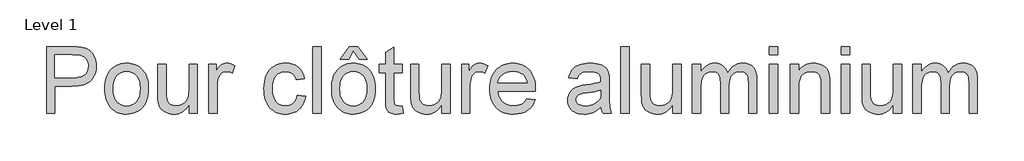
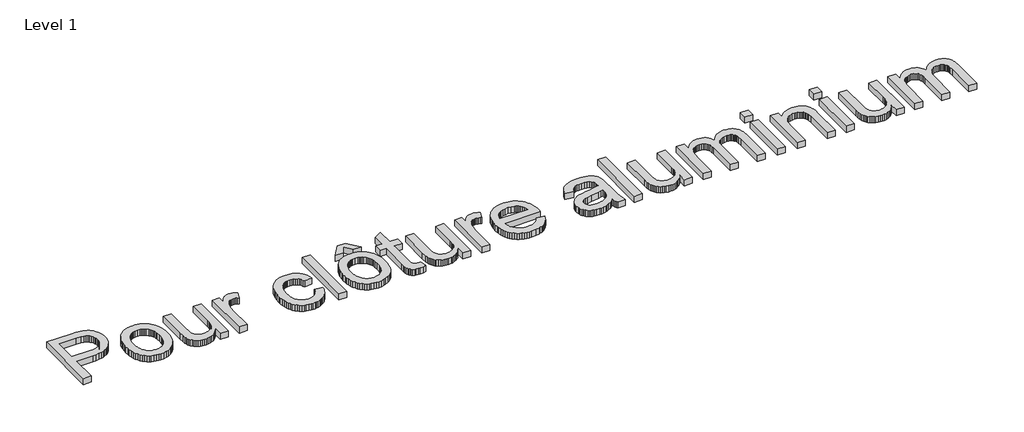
# One storey, part 4 of 4: 1 proxy.
"""IFC4 building model written with IfcOpenShell, lengths in millimetres."""

from ifc_helpers import new_model, si_unit, origin, origin_with_axes, place, context, project, spatial, polyline, outline, extrude, element, save

model = new_model("IFC4")

# Units and contexts
model_context = context("Model", 3, world=origin())
ifc_project = project(units=[si_unit("LENGTHUNIT", "METRE", prefix="MILLI")], contexts=[model_context])

# Site, building, storey
site = spatial("IfcSite", under=ifc_project)
building = spatial("IfcBuilding", under=site)
storey = spatial("IfcBuildingStorey", under=building, Name="Level 1", Elevation=0.0)

# Proxy
placement = place(None, origin())
element("IfcBuildingElementProxy", 1, Name="24\" Arial", ObjectType="24\" Arial", at=placement, inside=storey, context=model_context, shape_type="SweptSolid", body=[
    extrude(outline(polyline([(-79427.594753, 18375.4761138), (-79427.594753, 19882.320766), (-78869.1498843, 19882.320766), (-78739.103599, 19878.7339166), (-78644.0061033, 19867.9733682), (-78591.5944153, 19856.6724932), (-78543.6203038, 19841.1639678), (-78500.083769, 19821.4477922), (-78460.9848107, 19797.5239662), (-78425.9095617, 19768.8981484), (-78394.4441548, 19735.0759975), (-78366.58859, 19696.0575134), (-78342.3428672, 19651.8426961), (-78322.7071657, 19603.8915773), (-78308.6816647, 19553.6641886), (-78300.266364, 19501.1605301), (-78297.4612638, 19446.3806018), (-78299.3552813, 19399.205484), (-78305.0373336, 19353.8812726), (-78314.5074209, 19310.4079674), (-78327.7655432, 19268.7855686), (-78344.8117003, 19229.014076), (-78365.6458924, 19191.0934897), (-78390.2681193, 19155.0238097), (-78418.6783812, 19120.805036), (-78452.0320574, 19089.592548), (-78491.4845273, 19062.541725), (-78537.0357909, 19039.6525672), (-78588.6858482, 19020.9250743), (-78646.4346993, 19006.3592466), (-78710.282344, 18995.9550839), (-78780.2287824, 18989.7125863), (-78856.2740145, 18987.6317538), (-79239.2391715, 18987.6317538), (-79239.2391715, 18375.4761138), (-79427.594753, 18375.4761138)]), holes=[polyline([(-79239.2391715, 19175.9873353), (-78845.2375546, 19175.9873353), (-78754.6466133, 19180.3099487), (-78678.2191288, 19193.2777891), (-78645.3166829, 19203.0036693), (-78615.9551011, 19214.8908563), (-78590.1343836, 19228.93935), (-78567.8545303, 19245.1491504), (-78531.9630431, 19283.2479295), (-78506.3262666, 19328.3824518), (-78490.9442006, 19380.5527172), (-78485.8168453, 19439.7587258), (-78488.8403755, 19483.7206243), (-78497.9109659, 19524.3715847), (-78513.0286167, 19561.7116072), (-78534.1933277, 19595.7406918), (-78560.2784604, 19625.3551924), (-78590.1573762, 19649.4514631), (-78623.8300751, 19668.0295039), (-78661.296557, 19681.0893147), (-78733.9532511, 19690.7462171), (-78849.6521386, 19693.9651845), (-79239.2391715, 19693.9651845), (-79239.2391715, 19175.9873353)])]), origin_with_axes(), (0.0, 0.0, 1.0), 150.0),
    extrude(outline(polyline([(-78109.1056823, 18928.7706345), (-78106.5592491, 19002.9046047), (-78098.9199495, 19072.0836643), (-78086.1877836, 19136.3078132), (-78068.3627513, 19195.5770515), (-78045.4448526, 19249.8913792), (-78017.4340876, 19299.2507963), (-77984.3304562, 19343.6553028), (-77946.1339584, 19383.1048986), (-77911.1736726, 19411.8169387), (-77874.3509841, 19436.7007068), (-77835.6658931, 19457.7562028), (-77795.1183994, 19474.9834269), (-77752.7085031, 19488.3823789), (-77708.4362043, 19497.953059), (-77662.3015028, 19503.695467), (-77614.3043988, 19505.609603), (-77561.1023393, 19503.2787257), (-77510.3892314, 19496.2860937), (-77462.1650752, 19484.631707), (-77416.4298706, 19468.3155657), (-77373.1836176, 19447.3376698), (-77332.4263163, 19421.6980191), (-77294.1579665, 19391.3966139), (-77258.3785684, 19356.4334539), (-77226.0020788, 19317.3603623), (-77197.9424544, 19274.7291621), (-77174.1996953, 19228.5398531), (-77154.7738015, 19178.7924355), (-77139.664773, 19125.4869092), (-77128.8726098, 19068.6232743), (-77122.3973119, 19008.2015306), (-77120.2388792, 18944.2216783), (-77124.0556549, 18843.399019), (-77135.505982, 18753.9347163), (-77154.5898605, 18675.8287702), (-77181.3072904, 18609.0811807), (-77215.3248787, 18551.4271743), (-77256.3092322, 18500.6019774), (-77304.260351, 18456.60559), (-77359.1782351, 18419.4380122), (-77418.9245704, 18389.9039858), (-77481.3610428, 18368.8082526), (-77546.4876522, 18356.1508127), (-77614.3043988, 18351.9316661), (-77668.345689, 18354.2539212), (-77719.7370793, 18361.2206865), (-77768.4785696, 18372.831962), (-77814.5701599, 18389.0877476), (-77858.0118502, 18409.9880435), (-77898.8036405, 18435.5328495), (-77936.9455308, 18465.7221657), (-77972.4375211, 18500.5559922), (-78004.4691214, 18539.7584173), (-78032.2298416, 18583.0535296), (-78055.7196818, 18630.4413291), (-78074.938642, 18681.9218158), (-78089.8867221, 18737.4949897), (-78100.5639222, 18797.1608508), (-78106.9702423, 18860.9193991), (-78109.1056823, 18928.7706345)]), holes=[polyline([(-77920.7501008, 18929.1385165), (-77915.3008487, 18837.7773223), (-77908.4892836, 18796.692376), (-77898.9530925, 18758.671197), (-77886.6922754, 18723.7137852), (-77871.7068323, 18691.8201407), (-77853.9967631, 18662.9902634), (-77833.5620679, 18637.2241534), (-77811.0637846, 18614.5045661), (-77787.1629513, 18594.8142571), (-77761.8595678, 18578.1532264), (-77735.1536342, 18564.5214741), (-77707.0451505, 18553.919), (-77677.5341167, 18546.3458042), (-77614.3043988, 18540.2872476), (-77551.3965776, 18546.3802932), (-77522.0120032, 18553.9966001), (-77494.0069863, 18564.6594298), (-77467.3815269, 18578.3687823), (-77442.135625, 18595.1246575), (-77418.2692806, 18614.9270556), (-77395.7824936, 18637.7759764), (-77375.3477984, 18663.746146), (-77357.6377293, 18692.9122904), (-77342.6522861, 18725.2744096), (-77330.391469, 18760.8325037), (-77320.8552779, 18799.5865727), (-77314.0437128, 18841.5366164), (-77308.5944608, 18935.0246285), (-77314.0782018, 19023.488752), (-77320.932878, 19063.4355633), (-77330.5294247, 19100.525541), (-77342.867842, 19134.7586851), (-77357.9481297, 19166.1349956), (-77375.7702879, 19194.6544725), (-77396.3343166, 19220.3171157), (-77442.8598927, 19262.727012), (-77468.1144169, 19279.3880426), (-77494.6967651, 19293.019795), (-77522.6069374, 19303.6222691), (-77551.8449338, 19311.1954648), (-77614.3043988, 19317.2540214), (-77677.5341167, 19311.2184575), (-77707.0451505, 19303.6740025), (-77735.1536342, 19293.1117655), (-77761.8595678, 19279.5317466), (-77787.1629513, 19262.9339456), (-77811.0637846, 19243.3183627), (-77833.5620679, 19220.6849977), (-77853.9967631, 19195.00511), (-77871.7068323, 19166.2499587), (-77886.6922754, 19134.4195439), (-77898.9530925, 19099.5138656), (-77908.4892836, 19061.5329236), (-77915.3008487, 19020.4767182), (-77920.7501008, 18929.1385165)])]), origin_with_axes(), (0.0, 0.0, 1.0), 150.0),
    extrude(outline(polyline([(-76202.0054193, 18375.4761138), (-76202.0054193, 18565.6711053), (-76234.677939, 18515.5759242), (-76270.1555589, 18472.1601007), (-76308.438279, 18435.4236345), (-76349.5260994, 18405.3665259), (-76393.4190199, 18381.9887747), (-76440.1170407, 18365.2903811), (-76489.6201616, 18355.2713448), (-76541.9283828, 18351.9316661), (-76588.5919147, 18354.2769138), (-76633.6689554, 18361.312657), (-76677.159505, 18373.0388956), (-76719.0635635, 18389.4556296), (-76757.5302246, 18409.4132279), (-76790.7085821, 18431.7620591), (-76818.5986358, 18456.5021232), (-76841.2003859, 18483.6334204), (-76859.6749598, 18513.5468251), (-76875.1834852, 18546.6332121), (-76887.725962, 18582.8925812), (-76897.3023902, 18622.3249326), (-76905.5797351, 18693.6940396), (-76908.33885, 18797.4367623), (-76908.33885, 19482.0651553), (-76719.9832685, 19482.0651553), (-76719.9832685, 18886.0963231), (-76717.132183, 18766.9025567), (-76708.5789266, 18694.0619216), (-76697.3010442, 18660.1133113), (-76681.1257328, 18630.0044692), (-76660.0529922, 18603.7353955), (-76634.0828226, 18581.3060901), (-76603.9969732, 18563.3603465), (-76570.5771932, 18550.5419583), (-76533.8234826, 18542.8509253), (-76493.7358415, 18540.2872476), (-76452.4525838, 18542.9084069), (-76412.4799058, 18550.7718845), (-76373.8178073, 18563.8776806), (-76336.4662885, 18582.2257951), (-76302.4487003, 18605.0919603), (-76273.7883936, 18631.7519087), (-76250.4853685, 18662.2056401), (-76232.5396249, 18696.4531546), (-76219.1809099, 18736.6787515), (-76209.6389707, 18785.0667302), (-76203.9138071, 18841.6170906), (-76202.0054193, 18906.3298328), (-76202.0054193, 19482.0651553), (-76013.6498378, 19482.0651553), (-76013.6498378, 18375.4761138), (-76202.0054193, 18375.4761138)])), origin_with_axes(), (0.0, 0.0, 1.0), 150.0),
    extrude(outline(polyline([(-75754.6609131, 18375.4761138), (-75754.6609131, 19482.0651553), (-75589.8497793, 19482.0651553), (-75589.8497793, 19318.3576674), (-75558.809736, 19370.6888812), (-75528.9653091, 19413.2712222), (-75500.3164987, 19446.1046903), (-75472.8633048, 19469.1892855), (-75445.3641257, 19485.1231744), (-75416.5773596, 19496.5045236), (-75386.5030065, 19503.3333331), (-75355.1410664, 19505.609603), (-75308.420053, 19501.9767683), (-75261.3311576, 19491.0782642), (-75213.8743802, 19472.9140907), (-75166.0497209, 19447.4842477), (-75228.957542, 19278.626412), (-75262.0669216, 19295.5259911), (-75295.1763012, 19307.5971191), (-75328.2856807, 19314.8397959), (-75361.3950603, 19317.2540214), (-75390.2623006, 19314.9317664), (-75417.6350203, 19307.9650011), (-75443.5132194, 19296.3537256), (-75467.8968979, 19280.0979399), (-75489.8663508, 19259.7264745), (-75508.5018731, 19235.7681595), (-75523.8034649, 19208.2229951), (-75535.771126, 19177.0909813), (-75549.129841, 19125.6794725), (-75558.6717802, 19071.8767307), (-75564.3969438, 19015.6827559), (-75566.3053316, 18957.0975482), (-75566.3053316, 18375.4761138), (-75754.6609131, 18375.4761138)])), origin_with_axes(), (0.0, 0.0, 1.0), 150.0),
    extrude(outline(polyline([(-73753.3828594, 18775.7317245), (-73565.0272779, 18752.1872769), (-73573.827705, 18706.4693167), (-73585.5137065, 18663.3092861), (-73600.0852824, 18622.7071849), (-73617.5424327, 18584.6630133), (-73637.8851574, 18549.1767712), (-73661.1134565, 18516.2484585), (-73687.22733, 18485.8780754), (-73716.2267779, 18458.0656217), (-73747.5312364, 18433.1904759), (-73780.5601418, 18411.6320161), (-73815.313494, 18393.3902425), (-73851.7912931, 18378.465155), (-73889.993539, 18366.8567536), (-73929.9202318, 18358.5650383), (-73971.5713715, 18353.5900092), (-74014.946958, 18351.9316661), (-74069.1319521, 18354.245299), (-74120.5865721, 18361.1861975), (-74169.310818, 18372.7543618), (-74215.3046896, 18388.9497919), (-74258.568187, 18409.7724876), (-74299.1013103, 18435.2224491), (-74336.9040594, 18465.2996763), (-74371.9764343, 18500.0041692), (-74403.5769228, 18539.0312755), (-74430.9640129, 18582.076343), (-74454.1377046, 18629.1393717), (-74473.0979977, 18680.2203616), (-74487.8448924, 18735.3193126), (-74498.3783886, 18794.4362247), (-74504.6984863, 18857.5710981), (-74506.8051855, 18924.7239326), (-74503.2068397, 19011.3256535), (-74492.4118024, 19092.3401666), (-74474.4200736, 19167.767472), (-74449.2316533, 19237.6075695), (-74416.6740967, 19300.4579091), (-74376.5749592, 19354.9159407), (-74328.9342408, 19400.9816643), (-74273.7519416, 19438.6550799), (-74213.5227612, 19467.9476837), (-74150.7413994, 19488.8709722), (-74085.4078563, 19501.4249453), (-74017.5221319, 19505.609603), (-73933.9554375, 19499.8614468), (-73895.1640055, 19492.6762516), (-73858.3671838, 19482.6169783), (-73823.5649722, 19469.6836269), (-73790.7573708, 19453.8761974), (-73759.9443797, 19435.1946898), (-73731.1259987, 19413.6391042), (-73704.5551468, 19389.4393667), (-73680.4847428, 19362.8254036), (-73658.9147867, 19333.7972149), (-73639.8452786, 19302.3548006), (-73623.2762185, 19268.4981608), (-73609.2076062, 19232.2272953), (-73588.5717255, 19152.4428876), (-73776.9273071, 19128.8984399), (-73791.6310906, 19172.8948273), (-73811.0943474, 19211.0740806), (-73835.3170775, 19243.4361999), (-73864.2992809, 19269.9811851), (-73897.3051937, 19290.663051), (-73933.5990518, 19305.4358124), (-73973.1808552, 19314.2994692), (-74016.0506039, 19317.2540214), (-74080.0505748, 19311.4368874), (-74109.6966903, 19304.1654698), (-74137.7735591, 19293.9854853), (-74164.2811813, 19280.8969336), (-74189.2195569, 19264.899815), (-74212.5886858, 19245.9941294), (-74234.3885681, 19224.1798767), (-74254.0903734, 19199.2213826), (-74271.1652713, 19170.8829726), (-74285.6132618, 19139.1646468), (-74297.434345, 19104.0664052), (-74306.6285208, 19065.5882478), (-74313.1957892, 19023.7301745), (-74318.449604, 18929.8742805), (-74313.3107524, 18834.6043401), (-74306.8871878, 18792.2203105), (-74297.8941975, 18753.3369081), (-74286.3317814, 18717.9541328), (-74272.1999394, 18686.0719845), (-74255.4986716, 18657.6904634), (-74236.2279781, 18632.8095694), (-74214.8822001, 18611.1246503), (-74191.9556792, 18592.3310536), (-74167.4484153, 18576.4287796), (-74141.3604086, 18563.4178281), (-74113.6916588, 18553.2981991), (-74084.4421661, 18546.0698927), (-74021.2009519, 18540.2872476), (-73970.2377992, 18543.8970897), (-73923.6662379, 18554.7266159), (-73881.4862679, 18572.7758263), (-73843.6978892, 18598.0447209), (-73811.3587626, 18630.8092111), (-73785.5265487, 18671.3452084), (-73766.2012477, 18719.6527129), (-73753.3828594, 18775.7317245)])), origin_with_axes(), (0.0, 0.0, 1.0), 150.0),
    extrude(outline(polyline([(-73400.216144, 18375.4761138), (-73400.216144, 19882.320766), (-73211.8605625, 19882.320766), (-73211.8605625, 18375.4761138), (-73400.216144, 18375.4761138)])), origin_with_axes(), (0.0, 0.0, 1.0), 150.0),
    extrude(outline(polyline([(-72976.4160856, 18928.7706345), (-72973.8696524, 19002.9046047), (-72966.2303528, 19072.0836643), (-72953.4981869, 19136.3078132), (-72935.6731546, 19195.5770515), (-72912.7552559, 19249.8913792), (-72884.7444909, 19299.2507963), (-72851.6408595, 19343.6553028), (-72813.4443617, 19383.1048986), (-72778.4840759, 19411.8169387), (-72741.6613874, 19436.7007068), (-72702.9762963, 19457.7562028), (-72662.4288027, 19474.9834269), (-72620.0189064, 19488.3823789), (-72575.7466076, 19497.953059), (-72529.6119061, 19503.695467), (-72481.6148021, 19505.609603), (-72428.4127426, 19503.2787257), (-72377.6996347, 19496.2860937), (-72329.4754785, 19484.631707), (-72283.7402739, 19468.3155657), (-72240.4940209, 19447.3376698), (-72199.7367196, 19421.6980191), (-72161.4683698, 19391.3966139), (-72125.6889717, 19356.4334539), (-72093.3124821, 19317.3603623), (-72065.2528577, 19274.7291621), (-72041.5100986, 19228.5398531), (-72022.0842048, 19178.7924355), (-72006.9751763, 19125.4869092), (-71996.1830131, 19068.6232743), (-71989.7077152, 19008.2015306), (-71987.5492825, 18944.2216783), (-71991.3660582, 18843.399019), (-72002.8163853, 18753.9347163), (-72021.9002638, 18675.8287702), (-72048.6176937, 18609.0811807), (-72082.635282, 18551.4271743), (-72123.6196355, 18500.6019774), (-72171.5707543, 18456.60559), (-72226.4886384, 18419.4380122), (-72286.2349737, 18389.9039858), (-72348.6714461, 18368.8082526), (-72413.7980555, 18356.1508127), (-72481.6148021, 18351.9316661), (-72535.6560923, 18354.2539212), (-72587.0474826, 18361.2206865), (-72635.7889729, 18372.831962), (-72681.8805632, 18389.0877476), (-72725.3222535, 18409.9880435), (-72766.1140438, 18435.5328495), (-72804.2559341, 18465.7221657), (-72839.7479244, 18500.5559922), (-72871.7795246, 18539.7584173), (-72899.5402449, 18583.0535296), (-72923.0300851, 18630.4413291), (-72942.2490453, 18681.9218158), (-72957.1971254, 18737.4949897), (-72967.8743255, 18797.1608508), (-72974.2806456, 18860.9193991), (-72976.4160856, 18928.7706345)]), holes=[polyline([(-72788.060504, 18929.1385165), (-72782.611252, 18837.7773223), (-72775.7996869, 18796.692376), (-72766.2634958, 18758.671197), (-72754.0026787, 18723.7137852), (-72739.0172356, 18691.8201407), (-72721.3071664, 18662.9902634), (-72700.8724712, 18637.2241534), (-72678.3741879, 18614.5045661), (-72654.4733545, 18594.8142571), (-72629.1699711, 18578.1532264), (-72602.4640375, 18564.5214741), (-72574.3555538, 18553.919), (-72544.84452, 18546.3458042), (-72481.6148021, 18540.2872476), (-72418.7069809, 18546.3802932), (-72389.3224065, 18553.9966001), (-72361.3173896, 18564.6594298), (-72334.6919302, 18578.3687823), (-72309.4460283, 18595.1246575), (-72285.5796839, 18614.9270556), (-72263.0928969, 18637.7759764), (-72242.6582017, 18663.746146), (-72224.9481326, 18692.9122904), (-72209.9626894, 18725.2744096), (-72197.7018723, 18760.8325037), (-72188.1656812, 18799.5865727), (-72181.3541161, 18841.5366164), (-72175.9048641, 18935.0246285), (-72181.3886051, 19023.488752), (-72188.2432813, 19063.4355633), (-72197.839828, 19100.525541), (-72210.1782453, 19134.7586851), (-72225.258533, 19166.1349956), (-72243.0806912, 19194.6544725), (-72263.6447199, 19220.3171157), (-72310.170296, 19262.727012), (-72335.4248202, 19279.3880426), (-72362.0071684, 19293.019795), (-72389.9173407, 19303.6222691), (-72419.1553371, 19311.1954648), (-72481.6148021, 19317.2540214), (-72544.84452, 19311.2184575), (-72574.3555538, 19303.6740025), (-72602.4640375, 19293.1117655), (-72629.1699711, 19279.5317466), (-72654.4733545, 19262.9339456), (-72678.3741879, 19243.3183627), (-72700.8724712, 19220.6849977), (-72721.3071664, 19195.00511), (-72739.0172356, 19166.2499587), (-72754.0026787, 19134.4195439), (-72766.2634958, 19099.5138656), (-72775.7996869, 19061.5329236), (-72782.611252, 19020.4767182), (-72788.060504, 18929.1385165)])]), origin_with_axes(), (0.0, 0.0, 1.0), 150.0),
    extrude(outline(polyline([(-72481.9826841, 19788.1429753), (-72587.9326987, 19599.7873937), (-72776.2882802, 19599.7873937), (-72576.1604748, 19882.320766), (-72387.8048933, 19882.320766), (-72164.1326402, 19599.7873937), (-72352.4882218, 19599.7873937), (-72481.9826841, 19788.1429753)])), origin_with_axes(), (0.0, 0.0, 1.0), 150.0),
    extrude(outline(polyline([(-71375.3936426, 18532.5617257), (-71351.8491949, 18369.9578839), (-71426.4372694, 18356.4382205), (-71492.747999, 18351.9316661), (-71540.8255773, 18353.8860392), (-71583.1549993, 18359.7491585), (-71619.7362652, 18369.521024), (-71650.569375, 18383.2016357), (-71676.4590704, 18400.0552296), (-71698.2100933, 18419.3460417), (-71715.8224439, 18441.0740721), (-71729.2961219, 18465.2393206), (-71739.274921, 18497.6359288), (-71746.4026347, 18544.0580381), (-71750.6792629, 18604.5056484), (-71752.1048056, 18678.9787598), (-71752.1048056, 19293.7095738), (-71893.3714918, 19293.7095738), (-71893.3714918, 19482.0651553), (-71752.1048056, 19482.0651553), (-71752.1048056, 19750.9868938), (-71563.7492241, 19861.7193743), (-71563.7492241, 19482.0651553), (-71375.3936426, 19482.0651553), (-71375.3936426, 19293.7095738), (-71563.7492241, 19293.7095738), (-71563.7492241, 18684.4969897), (-71561.2660206, 18622.5088736), (-71553.8164102, 18587.376143), (-71540.8025846, 18567.9243825), (-71521.6267356, 18552.9791765), (-71494.4494533, 18543.4602298), (-71457.4313275, 18540.2872476), (-71375.3936426, 18532.5617257)])), origin_with_axes(), (0.0, 0.0, 1.0), 150.0),
    extrude(outline(polyline([(-70480.7046303, 18375.4761138), (-70480.7046303, 18565.6711053), (-70513.37715, 18515.5759242), (-70548.8547699, 18472.1601007), (-70587.13749, 18435.4236345), (-70628.2253104, 18405.3665259), (-70672.1182309, 18381.9887747), (-70718.8162517, 18365.2903811), (-70768.3193726, 18355.2713448), (-70820.6275938, 18351.9316661), (-70867.2911257, 18354.2769138), (-70912.3681664, 18361.312657), (-70955.858716, 18373.0388956), (-70997.7627745, 18389.4556296), (-71036.2294356, 18409.4132279), (-71069.4077931, 18431.7620591), (-71097.2978468, 18456.5021232), (-71119.8995969, 18483.6334204), (-71138.3741709, 18513.5468251), (-71153.8826962, 18546.6332121), (-71166.425173, 18582.8925812), (-71176.0016012, 18622.3249326), (-71184.2789461, 18693.6940396), (-71187.038061, 18797.4367623), (-71187.038061, 19482.0651553), (-70998.6824795, 19482.0651553), (-70998.6824795, 18886.0963231), (-70995.831394, 18766.9025567), (-70987.2781377, 18694.0619216), (-70976.0002552, 18660.1133113), (-70959.8249438, 18630.0044692), (-70938.7522032, 18603.7353955), (-70912.7820336, 18581.3060901), (-70882.6961842, 18563.3603465), (-70849.2764042, 18550.5419583), (-70812.5226936, 18542.8509253), (-70772.4350525, 18540.2872476), (-70731.1517948, 18542.9084069), (-70691.1791168, 18550.7718845), (-70652.5170184, 18563.8776806), (-70615.1654995, 18582.2257951), (-70581.1479113, 18605.0919603), (-70552.4876046, 18631.7519087), (-70529.1845795, 18662.2056401), (-70511.2388359, 18696.4531546), (-70497.8801209, 18736.6787515), (-70488.3381817, 18785.0667302), (-70482.6130181, 18841.6170906), (-70480.7046303, 18906.3298328), (-70480.7046303, 19482.0651553), (-70292.3490488, 19482.0651553), (-70292.3490488, 18375.4761138), (-70480.7046303, 18375.4761138)])), origin_with_axes(), (0.0, 0.0, 1.0), 150.0),
    extrude(outline(polyline([(-70033.3601242, 18375.4761138), (-70033.3601242, 19482.0651553), (-69868.5489903, 19482.0651553), (-69868.5489903, 19318.3576674), (-69837.508947, 19370.6888812), (-69807.6645201, 19413.2712222), (-69779.0157097, 19446.1046903), (-69751.5625159, 19469.1892855), (-69724.0633367, 19485.1231744), (-69695.2765706, 19496.5045236), (-69665.2022175, 19503.3333331), (-69633.8402774, 19505.609603), (-69587.119264, 19501.9767683), (-69540.0303686, 19491.0782642), (-69492.5735913, 19472.9140907), (-69444.7489319, 19447.4842477), (-69507.6567531, 19278.626412), (-69540.7661326, 19295.5259911), (-69573.8755122, 19307.5971191), (-69606.9848918, 19314.8397959), (-69640.0942713, 19317.2540214), (-69668.9615116, 19314.9317664), (-69696.3342313, 19307.9650011), (-69722.2124304, 19296.3537256), (-69746.5961089, 19280.0979399), (-69768.5655618, 19259.7264745), (-69787.2010841, 19235.7681595), (-69802.5026759, 19208.2229951), (-69814.470337, 19177.0909813), (-69827.829052, 19125.6794725), (-69837.3709912, 19071.8767307), (-69843.0961548, 19015.6827559), (-69845.0045426, 18957.0975482), (-69845.0045426, 18375.4761138), (-70033.3601242, 18375.4761138)])), origin_with_axes(), (0.0, 0.0, 1.0), 150.0),
    extrude(outline(polyline([(-68552.2672116, 18705.0983815), (-68367.59045, 18681.5539338), (-68395.9058673, 18607.5866601), (-68413.7797589, 18573.8967168), (-68434.1311059, 18542.4025691), (-68456.9599081, 18513.1042171), (-68482.2661657, 18486.0016607), (-68510.0498786, 18461.0949), (-68540.3110467, 18438.383935), (-68572.9002182, 18418.1216845), (-68607.6679408, 18400.5610673), (-68644.6142146, 18385.7020836), (-68683.7390396, 18373.5447333), (-68768.5243432, 18357.3349329), (-68862.0238515, 18351.9316661), (-68922.0518464, 18354.2625434), (-68978.8953629, 18361.2551754), (-69032.5544007, 18372.9095621), (-69083.0289601, 18389.2257034), (-69130.319041, 18410.2035993), (-69174.4246433, 18435.8432499), (-69215.3457671, 18466.1446552), (-69253.0824124, 18501.1078151), (-69286.967793, 18540.2786254), (-69316.3351229, 18583.2029816), (-69341.1844021, 18629.8808839), (-69361.5156305, 18680.3123321), (-69377.3288081, 18734.4973262), (-69388.623935, 18792.4358664), (-69395.4010111, 18854.1279525), (-69397.6600365, 18919.5735847), (-69395.3780185, 18987.2466273), (-69388.5319645, 19051.0224201), (-69377.1218745, 19110.9009629), (-69361.1477485, 19166.8822559), (-69340.6095865, 19218.966299), (-69315.5073884, 19267.1530922), (-69285.8411544, 19311.4426356), (-69251.6108844, 19351.834929), (-69213.7420315, 19387.8758682), (-69173.1600489, 19419.1113489), (-69129.8649366, 19445.541371), (-69083.8566946, 19467.1659345), (-69035.1353229, 19483.9850395), (-68983.7008214, 19495.9986859), (-68929.5531903, 19503.2068737), (-68872.6924294, 19505.609603), (-68817.691197, 19503.2126219), (-68765.2593905, 19496.0216785), (-68715.3970097, 19484.0367729), (-68668.1040548, 19467.257905), (-68623.3805257, 19445.6850749), (-68581.2264224, 19419.3182825), (-68541.6417449, 19388.1575279), (-68504.6264932, 19352.202811), (-68471.1291131, 19311.9024881), (-68442.0980503, 19267.7049152), (-68417.5333049, 19219.6100925), (-68397.4348769, 19167.6180199), (-68381.8027661, 19111.7286974), (-68370.6369728, 19051.9421251), (-68363.9374968, 18988.2583028), (-68361.7043381, 18920.6772306), (-68362.8079841, 18869.9095153), (-69209.304455, 18869.9095153), (-69198.3944545, 18794.7466252), (-69188.8956265, 18760.6658072), (-69176.7009131, 18728.9187407), (-69161.8103146, 18699.5054255), (-69144.2238308, 18672.4258618), (-69123.9414617, 18647.6800494), (-69100.9632074, 18625.2679885), (-69049.310276, 18588.0889144), (-68991.6562696, 18561.5324329), (-68928.0011881, 18545.5985439), (-68858.3450316, 18540.2872476), (-68806.243744, 18542.7474585), (-68758.0971879, 18550.128091), (-68713.9053632, 18562.4291452), (-68673.66827, 18579.6506211), (-68637.3859082, 18602.2523712), (-68605.0582779, 18630.694248), (-68576.685379, 18664.9762514), (-68552.2672116, 18705.0983815)]), holes=[polyline([(-69209.304455, 19058.2650968), (-68550.0599196, 19058.2650968), (-68559.7398146, 19111.5620009), (-68575.5357478, 19157.7771765), (-68597.4477191, 19196.9106238), (-68625.4757286, 19228.9623426), (-68650.2732744, 19249.6557048), (-68676.8412522, 19267.5899521), (-68705.1796621, 19282.7650844), (-68735.2885042, 19295.1811017), (-68800.8174846, 19311.7357915), (-68873.4281934, 19317.2540214), (-68939.6584488, 19312.8509338), (-69000.393467, 19299.6416709), (-69055.6332478, 19277.6262328), (-69105.3777913, 19246.8046194), (-69147.1209015, 19208.6023734), (-69178.3563821, 19164.4450377), (-69199.0842333, 19114.3326122), (-69209.304455, 19058.2650968)])]), origin_with_axes(), (0.0, 0.0, 1.0), 150.0),
    extrude(outline(polyline([(-66878.4041335, 18516.7427999), (-66923.067307, 18474.8272451), (-66968.3972666, 18439.5795515), (-67014.3940123, 18410.999719), (-67061.0575441, 18389.0877476), (-67108.9166924, 18372.831962), (-67158.5002876, 18361.2206865), (-67209.8083296, 18354.2539212), (-67262.8408185, 18351.9316661), (-67346.7064171, 18357.5188739), (-67384.7678332, 18364.5028837), (-67420.2483272, 18374.2804973), (-67453.147899, 18386.8517149), (-67483.4665488, 18402.2165363), (-67511.2042764, 18420.3749617), (-67536.3610819, 18441.3269909), (-67558.7357798, 18464.4518232), (-67578.1271847, 18489.1286577), (-67594.5352965, 18515.3574943), (-67607.9601152, 18543.1383331), (-67618.4016409, 18572.4711741), (-67625.8598735, 18603.3560172), (-67631.8264596, 18669.7817099), (-67629.5731824, 18709.719899), (-67622.8133508, 18747.8646634), (-67611.5469647, 18784.2160031), (-67595.7740241, 18818.773918), (-67576.3337599, 18850.7796516), (-67554.0654029, 18879.4744472), (-67528.9689531, 18904.8583049), (-67501.0444104, 18926.9312246), (-67438.7343974, 18962.7997191), (-67369.1587151, 18988.7353998), (-67301.3764575, 19003.1747681), (-67206.1869912, 19017.0623134), (-67102.5822243, 19031.3177407), (-67013.6007668, 19046.860755), (-66939.2426185, 19063.6913563), (-66879.5077795, 19081.8095445), (-66878.4041335, 19123.748092), (-66881.6460936, 19169.4114446), (-66891.3719739, 19207.8091279), (-66907.5817743, 19238.9411417), (-66930.2754948, 19262.8074862), (-66969.5009126, 19286.6278454), (-67017.2795867, 19303.6423876), (-67073.6115172, 19313.851113), (-67138.4967041, 19317.2540214), (-67198.8293513, 19314.9892479), (-67250.7007126, 19308.1949273), (-67294.1107881, 19296.8710597), (-67329.0595776, 19281.0176449), (-67357.7773659, 19259.3930814), (-67382.4944374, 19230.7557673), (-67403.2107923, 19195.1057027), (-67419.9264304, 19152.4428876), (-67608.282012, 19175.9873353), (-67593.9461105, 19230.2499296), (-67575.5864996, 19278.994294), (-67553.2031795, 19322.2204284), (-67526.79615, 19359.9283329), (-67495.2272763, 19392.8767641), (-67457.3584234, 19421.8244786), (-67413.1895914, 19446.7714764), (-67362.7207802, 19467.7177575), (-67306.9751616, 19484.2954399), (-67246.9759074, 19496.1366416), (-67182.7230177, 19503.2413626), (-67114.2164924, 19505.609603), (-67047.250473, 19503.5172741), (-66986.8833369, 19497.2402876), (-66933.115084, 19486.7786434), (-66885.9457144, 19472.1323414), (-66844.9843535, 19454.3245536), (-66809.8401267, 19434.3784517), (-66780.5130339, 19412.2940356), (-66757.0030751, 19388.0713055), (-66737.9421892, 19361.1124531), (-66721.9623151, 19330.81967), (-66709.0634526, 19297.1929564), (-66699.2456019, 19260.2323122), (-66692.3478145, 19195.1171991), (-66690.048552, 19095.4211784), (-66690.048552, 18861.0803474), (-66687.657319, 18656.9518254), (-66680.4836201, 18533.8493127), (-66666.3201633, 18452.961259), (-66642.9596566, 18375.4761138), (-66831.3152381, 18375.4761138), (-66848.0538689, 18406.9300244), (-66861.4815617, 18440.9591089), (-66871.5983166, 18477.5633675), (-66878.4041335, 18516.7427999)]), holes=[polyline([(-66878.4041335, 18893.453963), (-66935.3338723, 18877.1521921), (-67004.9555399, 18862.0920229), (-67182.2746615, 18835.6964898), (-67279.9933165, 18821.2571215), (-67344.3266804, 18805.1622842), (-67386.4951541, 18784.2849809), (-67403.4752075, 18770.8802807), (-67417.7191385, 18755.4982148), (-67428.9855246, 18738.6906062), (-67437.0329432, 18721.0092778), (-67441.8613944, 18702.4542296), (-67443.4708781, 18683.0254618), (-67439.9645028, 18653.7558505), (-67429.445377, 18627.015428), (-67411.9135007, 18602.8041942), (-67387.3688739, 18581.1221491), (-67356.0414227, 18563.2568797), (-67318.1610735, 18550.495973), (-67273.7278263, 18542.839429), (-67222.741681, 18540.2872476), (-67170.6863787, 18543.1038442), (-67121.5741323, 18551.5536337), (-67075.4049419, 18565.6366164), (-67032.1788075, 18585.352792), (-66993.183316, 18609.0696844), (-66959.7060545, 18635.1548171), (-66931.7470228, 18663.6081902), (-66909.3062211, 18694.4298036), (-66896.2694029, 18722.0209533), (-66886.9573899, 18755.4982148), (-66881.3701821, 18794.8615883), (-66879.5077795, 18840.1110737), (-66878.4041335, 18893.453963)])]), origin_with_axes(), (0.0, 0.0, 1.0), 150.0),
    extrude(outline(polyline([(-66431.0596274, 18375.4761138), (-66431.0596274, 19882.320766), (-66242.7040459, 19882.320766), (-66242.7040459, 18375.4761138), (-66431.0596274, 18375.4761138)])), origin_with_axes(), (0.0, 0.0, 1.0), 150.0),
    extrude(outline(polyline([(-65253.8372428, 18375.4761138), (-65253.8372428, 18565.6711053), (-65286.5097625, 18515.5759242), (-65321.9873824, 18472.1601007), (-65360.2701026, 18435.4236345), (-65401.3579229, 18405.3665259), (-65445.2508434, 18381.9887747), (-65491.9488642, 18365.2903811), (-65541.4519852, 18355.2713448), (-65593.7602064, 18351.9316661), (-65640.4237382, 18354.2769138), (-65685.5007789, 18361.312657), (-65728.9913285, 18373.0388956), (-65770.895387, 18389.4556296), (-65809.3620482, 18409.4132279), (-65842.5404056, 18431.7620591), (-65870.4304594, 18456.5021232), (-65893.0322094, 18483.6334204), (-65911.5067834, 18513.5468251), (-65927.0153087, 18546.6332121), (-65939.5577855, 18582.8925812), (-65949.1342137, 18622.3249326), (-65957.4115586, 18693.6940396), (-65960.1706736, 18797.4367623), (-65960.1706736, 19482.0651553), (-65771.815092, 19482.0651553), (-65771.815092, 18886.0963231), (-65768.9640066, 18766.9025567), (-65760.4107502, 18694.0619216), (-65749.1328678, 18660.1133113), (-65732.9575563, 18630.0044692), (-65711.8848158, 18603.7353955), (-65685.9146462, 18581.3060901), (-65655.8287967, 18563.3603465), (-65622.4090167, 18550.5419583), (-65585.6553062, 18542.8509253), (-65545.567665, 18540.2872476), (-65504.2844074, 18542.9084069), (-65464.3117293, 18550.7718845), (-65425.6496309, 18563.8776806), (-65388.2981121, 18582.2257951), (-65354.2805238, 18605.0919603), (-65325.6202171, 18631.7519087), (-65302.317192, 18662.2056401), (-65284.3714484, 18696.4531546), (-65271.0127335, 18736.6787515), (-65261.4707942, 18785.0667302), (-65255.7456307, 18841.6170906), (-65253.8372428, 18906.3298328), (-65253.8372428, 19482.0651553), (-65065.4816613, 19482.0651553), (-65065.4816613, 18375.4761138), (-65253.8372428, 18375.4761138)])), origin_with_axes(), (0.0, 0.0, 1.0), 150.0),
    extrude(outline(polyline([(-64806.4927367, 18375.4761138), (-64806.4927367, 19482.0651553), (-64618.1371552, 19482.0651553), (-64618.1371552, 19299.9635677), (-64591.8335925, 19344.0519255), (-64561.4833279, 19383.6107363), (-64527.0863614, 19418.6400001), (-64488.6426929, 19449.1397167), (-64446.7731233, 19473.845292), (-64402.0984535, 19491.4921314), (-64354.6186835, 19502.0802351), (-64304.3338133, 19505.609603), (-64249.3584476, 19502.0112572), (-64199.5794151, 19491.2162199), (-64154.9967159, 19473.2244911), (-64115.6103497, 19448.0360707), (-64081.5352799, 19416.3637302), (-64052.8864696, 19378.9202409), (-64029.6639186, 19335.7056028), (-64011.8676271, 19286.7198159), (-63978.7467512, 19338.0221097), (-63943.2116498, 19382.4840977), (-63905.2623227, 19420.1057799), (-63864.89877, 19450.8871562), (-63822.1209918, 19474.8282267), (-63776.9289879, 19491.9289913), (-63729.3227585, 19502.1894501), (-63679.3023035, 19505.609603), (-63603.8979908, 19499.9189284), (-63569.6533504, 19492.8055851), (-63537.7137206, 19482.8469045), (-63508.0791014, 19470.0428866), (-63480.7494929, 19454.3935315), (-63455.724895, 19435.898839), (-63433.0053077, 19414.5588092), (-63412.7861684, 19390.2584789), (-63395.2629143, 19362.8828852), (-63380.4355454, 19332.4320278), (-63368.3040618, 19298.9059069), (-63358.8684634, 19262.3045225), (-63352.1287503, 19222.6278745), (-63346.7369798, 19134.0487879), (-63346.7369798, 18375.4761138), (-63535.0925614, 18375.4761138), (-63535.0925614, 19053.1147489), (-63539.46116, 19147.0626134), (-63544.9219084, 19182.5517297), (-63552.5669561, 19210.3843019), (-63563.0745856, 19233.2274745), (-63577.1230793, 19253.748392), (-63594.7124372, 19271.9470545), (-63615.8426593, 19287.8234618), (-63639.7434927, 19300.6993317), (-63665.6446844, 19309.8963815), (-63693.5462345, 19315.4146115), (-63723.4481429, 19317.2540214), (-63776.8255211, 19312.5405334), (-63825.4894113, 19298.4000692), (-63869.4398134, 19274.8326289), (-63908.6767275, 19241.8382124), (-63925.9643072, 19221.5644656), (-63940.9468762, 19198.4511296), (-63953.6244347, 19172.4982045), (-63963.9969825, 19143.7056902), (-63977.8270462, 19077.6018942), (-63982.4370675, 19000.1397416), (-63982.4370675, 18375.4761138), (-64170.792649, 18375.4761138), (-64170.792649, 19074.0840226), (-64173.517275, 19131.1517171), (-64181.6911531, 19180.5858602), (-64195.3142833, 19222.3864519), (-64214.3866655, 19256.5534922), (-64239.6670563, 19283.1099738), (-64271.9142124, 19302.0788891), (-64311.1281339, 19313.4602384), (-64357.3088206, 19317.2540214), (-64394.3039537, 19314.7248327), (-64429.8735441, 19307.1372666), (-64464.0175918, 19294.491323), (-64496.7360967, 19276.787002), (-64526.5345384, 19254.2082445), (-64551.918396, 19226.9389916), (-64572.8876698, 19194.9792433), (-64589.4423595, 19158.3289995), (-64601.9963326, 19115.0338872), (-64610.9634563, 19063.1395333), (-64616.3437304, 19002.6459377), (-64618.1371552, 18933.5531005), (-64618.1371552, 18375.4761138), (-64806.4927367, 18375.4761138)])), origin_with_axes(), (0.0, 0.0, 1.0), 150.0),
    extrude(outline(polyline([(-63064.2036075, 19693.9651845), (-63064.2036075, 19882.320766), (-62875.848026, 19882.320766), (-62875.848026, 19693.9651845), (-63064.2036075, 19693.9651845)])), origin_with_axes(), (0.0, 0.0, 1.0), 150.0),
    extrude(outline(polyline([(-63064.2036075, 18375.4761138), (-63064.2036075, 19482.0651553), (-62875.848026, 19482.0651553), (-62875.848026, 18375.4761138), (-63064.2036075, 18375.4761138)])), origin_with_axes(), (0.0, 0.0, 1.0), 150.0),
    extrude(outline(polyline([(-62593.3146537, 18375.4761138), (-62593.3146537, 19482.0651553), (-62404.9590722, 19482.0651553), (-62404.9590722, 19327.5547173), (-62373.8845399, 19369.2863311), (-62339.5220623, 19405.4537298), (-62301.8716393, 19436.0569133), (-62260.9332711, 19461.0958816), (-62216.7069575, 19480.5706347), (-62169.1926985, 19494.4811726), (-62118.3904942, 19502.8274954), (-62064.3003446, 19505.609603), (-62016.9010488, 19503.3678221), (-61971.4561261, 19496.6424793), (-61927.9655765, 19485.4335748), (-61886.4294, 19469.7411085), (-61848.4225913, 19450.4043111), (-61815.5201454, 19428.2624135), (-61787.7220621, 19403.3154157), (-61765.0283416, 19375.5633177), (-61746.3928192, 19345.0406084), (-61730.7693308, 19311.7817768), (-61718.1578761, 19275.7868228), (-61708.5584553, 19237.0557465), (-61701.1088449, 19165.5946689), (-61698.6256414, 19054.9541589), (-61698.6256414, 18375.4761138), (-61886.981223, 18375.4761138), (-61886.981223, 19029.5703012), (-61892.4074824, 19126.9670594), (-61899.1903067, 19165.1118238), (-61908.6862607, 19196.220845), (-61921.6196121, 19222.4209409), (-61938.7146285, 19245.8389291), (-61959.9713101, 19266.4748098), (-61985.3896567, 19284.3285829), (-62014.0959486, 19298.7334623), (-62045.2164661, 19309.0226618), (-62078.7512093, 19315.1961815), (-62114.700178, 19317.2540214), (-62171.8943319, 19312.6325039), (-62225.0187913, 19298.7679512), (-62274.0735561, 19275.6603634), (-62319.0586263, 19243.3097404), (-62339.1915433, 19222.7485858), (-62356.6400714, 19198.0372624), (-62371.4042105, 19169.1757702), (-62383.4839607, 19136.1641093), (-62392.879322, 19099.0022797), (-62399.5902943, 19057.6902812), (-62404.9590722, 18962.6157781), (-62404.9590722, 18375.4761138), (-62593.3146537, 18375.4761138)])), origin_with_axes(), (0.0, 0.0, 1.0), 150.0),
    extrude(outline(polyline([(-61439.6367168, 19693.9651845), (-61439.6367168, 19882.320766), (-61251.2811353, 19882.320766), (-61251.2811353, 19693.9651845), (-61439.6367168, 19693.9651845)])), origin_with_axes(), (0.0, 0.0, 1.0), 150.0),
    extrude(outline(polyline([(-61439.6367168, 18375.4761138), (-61439.6367168, 19482.0651553), (-61251.2811353, 19482.0651553), (-61251.2811353, 18375.4761138), (-61439.6367168, 18375.4761138)])), origin_with_axes(), (0.0, 0.0, 1.0), 150.0),
    extrude(outline(polyline([(-60262.4143323, 18375.4761138), (-60262.4143323, 18565.6711053), (-60295.086852, 18515.5759242), (-60330.5644719, 18472.1601007), (-60368.847192, 18435.4236345), (-60409.9350123, 18405.3665259), (-60453.8279329, 18381.9887747), (-60500.5259536, 18365.2903811), (-60550.0290746, 18355.2713448), (-60602.3372958, 18351.9316661), (-60649.0008276, 18354.2769138), (-60694.0778684, 18361.312657), (-60737.568418, 18373.0388956), (-60779.4724765, 18389.4556296), (-60817.9391376, 18409.4132279), (-60851.117495, 18431.7620591), (-60879.0075488, 18456.5021232), (-60901.6092989, 18483.6334204), (-60920.0838728, 18513.5468251), (-60935.5923982, 18546.6332121), (-60948.134875, 18582.8925812), (-60957.7113031, 18622.3249326), (-60965.988648, 18693.6940396), (-60968.747763, 18797.4367623), (-60968.747763, 19482.0651553), (-60780.3921815, 19482.0651553), (-60780.3921815, 18886.0963231), (-60777.541096, 18766.9025567), (-60768.9878396, 18694.0619216), (-60757.7099572, 18660.1133113), (-60741.5346457, 18630.0044692), (-60720.4619052, 18603.7353955), (-60694.4917356, 18581.3060901), (-60664.4058862, 18563.3603465), (-60630.9861062, 18550.5419583), (-60594.2323956, 18542.8509253), (-60554.1447544, 18540.2872476), (-60512.8614968, 18542.9084069), (-60472.8888188, 18550.7718845), (-60434.2267203, 18563.8776806), (-60396.8752015, 18582.2257951), (-60362.8576133, 18605.0919603), (-60334.1973066, 18631.7519087), (-60310.8942814, 18662.2056401), (-60292.9485379, 18696.4531546), (-60279.5898229, 18736.6787515), (-60270.0478837, 18785.0667302), (-60264.3227201, 18841.6170906), (-60262.4143323, 18906.3298328), (-60262.4143323, 19482.0651553), (-60074.0587507, 19482.0651553), (-60074.0587507, 18375.4761138), (-60262.4143323, 18375.4761138)])), origin_with_axes(), (0.0, 0.0, 1.0), 150.0),
    extrude(outline(polyline([(-59815.0698261, 18375.4761138), (-59815.0698261, 19482.0651553), (-59626.7142446, 19482.0651553), (-59626.7142446, 19299.9635677), (-59600.4106819, 19344.0519255), (-59570.0604173, 19383.6107363), (-59535.6634508, 19418.6400001), (-59497.2197823, 19449.1397167), (-59455.3502127, 19473.845292), (-59410.6755429, 19491.4921314), (-59363.1957729, 19502.0802351), (-59312.9109027, 19505.609603), (-59257.9355371, 19502.0112572), (-59208.1565046, 19491.2162199), (-59163.5738053, 19473.2244911), (-59124.1874392, 19448.0360707), (-59090.1123694, 19416.3637302), (-59061.463559, 19378.9202409), (-59038.2410081, 19335.7056028), (-59020.4447165, 19286.7198159), (-58987.3238407, 19338.0221097), (-58951.7887392, 19382.4840977), (-58913.8394121, 19420.1057799), (-58873.4758595, 19450.8871562), (-58830.6980812, 19474.8282267), (-58785.5060774, 19491.9289913), (-58737.8998479, 19502.1894501), (-58687.8793929, 19505.609603), (-58612.4750802, 19499.9189284), (-58578.2304398, 19492.8055851), (-58546.29081, 19482.8469045), (-58516.6561909, 19470.0428866), (-58489.3265823, 19454.3935315), (-58464.3019844, 19435.898839), (-58441.5823971, 19414.5588092), (-58421.3632578, 19390.2584789), (-58403.8400037, 19362.8828852), (-58389.0126348, 19332.4320278), (-58376.8811512, 19298.9059069), (-58367.4455529, 19262.3045225), (-58360.7058398, 19222.6278745), (-58355.3140693, 19134.0487879), (-58355.3140693, 18375.4761138), (-58543.6696508, 18375.4761138), (-58543.6696508, 19053.1147489), (-58548.0382495, 19147.0626134), (-58553.4989979, 19182.5517297), (-58561.1440456, 19210.3843019), (-58571.6516751, 19233.2274745), (-58585.7001687, 19253.748392), (-58603.2895266, 19271.9470545), (-58624.4197487, 19287.8234618), (-58648.3205821, 19300.6993317), (-58674.2217738, 19309.8963815), (-58702.1233239, 19315.4146115), (-58732.0252323, 19317.2540214), (-58785.4026106, 19312.5405334), (-58834.0665007, 19298.4000692), (-58878.0169029, 19274.8326289), (-58917.2538169, 19241.8382124), (-58934.5413966, 19221.5644656), (-58949.5239657, 19198.4511296), (-58962.2015241, 19172.4982045), (-58972.5740719, 19143.7056902), (-58986.4041357, 19077.6018942), (-58991.0141569, 19000.1397416), (-58991.0141569, 18375.4761138), (-59179.3697385, 18375.4761138), (-59179.3697385, 19074.0840226), (-59182.0943645, 19131.1517171), (-59190.2682426, 19180.5858602), (-59203.8913727, 19222.3864519), (-59222.9637549, 19256.5534922), (-59248.2441457, 19283.1099738), (-59280.4913019, 19302.0788891), (-59319.7052233, 19313.4602384), (-59365.88591, 19317.2540214), (-59402.8810432, 19314.7248327), (-59438.4506336, 19307.1372666), (-59472.5946812, 19294.491323), (-59505.3131862, 19276.787002), (-59535.1116278, 19254.2082445), (-59560.4954855, 19226.9389916), (-59581.4647592, 19194.9792433), (-59598.019449, 19158.3289995), (-59610.5734221, 19115.0338872), (-59619.5405457, 19063.1395333), (-59624.9208199, 19002.6459377), (-59626.7142446, 18933.5531005), (-59626.7142446, 18375.4761138), (-59815.0698261, 18375.4761138)])), origin_with_axes(), (0.0, 0.0, 1.0), 150.0),
])

save(model, "model.ifc")
